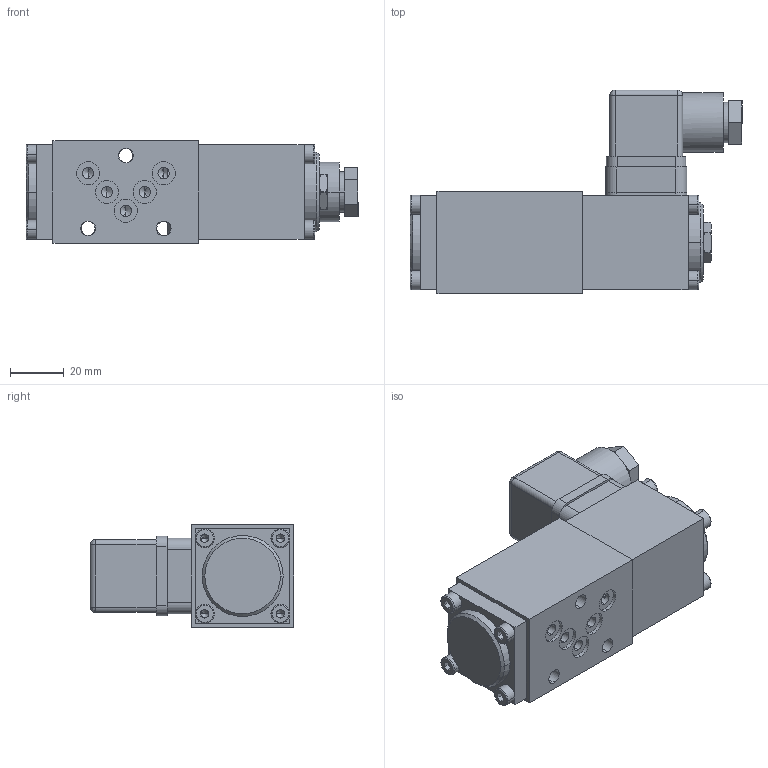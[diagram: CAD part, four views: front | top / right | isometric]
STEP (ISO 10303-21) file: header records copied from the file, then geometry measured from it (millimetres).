
FILE_DESCRIPTION (( 'STEP AP214' ), '1' );
FILE_NAME ('BE4.4.b.STEP', '2017-03-17T12:32:39', ( '' ), ( '' ), 'SwSTEP 2.0', 'SolidWorks 2016', '' );
FILE_SCHEMA (( 'AUTOMOTIVE_DESIGN' ));
Length unit declared in the file: millimetre
Products named in the file (1): BE4.4.b
Bounding box: 123 x 75.5 x 38 mm (x, y, z)
Volume: 169222.4 mm3; surface area: 40609 mm2
Topology: 13 solids, 19 shells, 633 faces, 1500 edges, 917 vertices
Faces by surface type: plane 294, cylinder 191, cone 87, torus 32, bspline 29
Entity records: 26556 total; most frequent: CARTESIAN_POINT 4974, DIRECTION 3102, ORIENTED_EDGE 2896, EDGE_CURVE 1448, AXIS2_PLACEMENT_3D 1143, VERTEX_POINT 917, VECTOR 816, LINE 816
